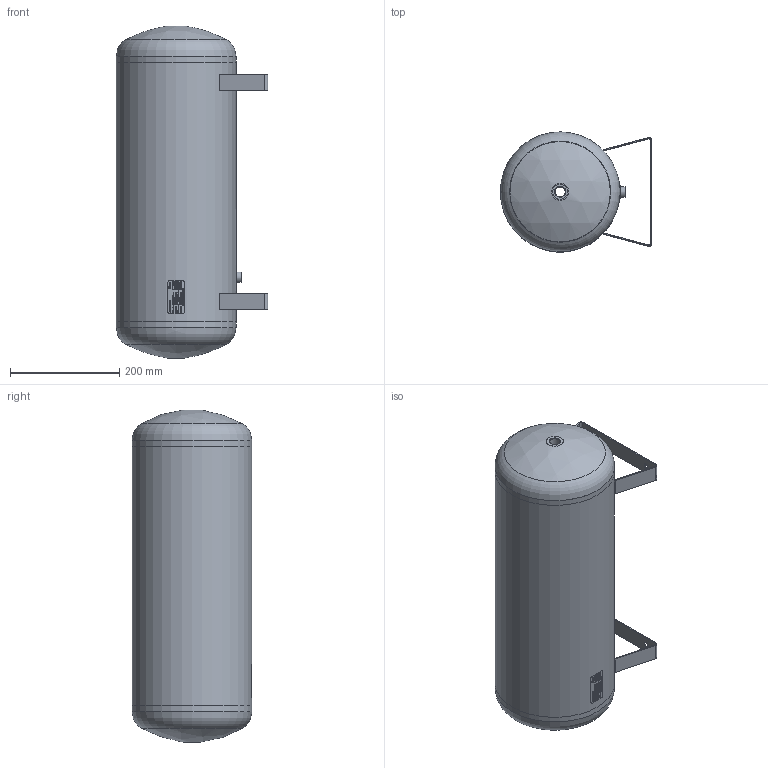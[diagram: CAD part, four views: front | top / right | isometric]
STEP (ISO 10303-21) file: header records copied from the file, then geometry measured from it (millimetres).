
FILE_DESCRIPTION(/* description */ (''),/* implementation_level */ '2;1');
FILE_NAME(/* name */ 'ATNL0200-SS 20.00L.stp',/* time_stamp */ '2022-11-07T13:25:08+01:00',/* author */ ('harm'),/* organization */ (''),/* preprocessor_version */ 'ST-DEVELOPER v19.2',/* originating_system */ 'Autodesk Inventor 2023',/* authorisation */ '');
FILE_SCHEMA (('AUTOMOTIVE_DESIGN { 1 0 10303 214 3 1 1 }'));
Length unit declared in the file: millimetre
Products named in the file (7): -; -_1; Cap Korbboog 219; Voetsteun s=2 0200; 24866; -_2; Typeplaatje ATNL0200-SS
Assembly tree (9 placements, depth 2):
  -
    -_1
    Cap Korbboog 219  x2
    Voetsteun s=2 0200  x2
    24866
    -_2  x2
    Typeplaatje ATNL0200-SS
Bounding box: 277.1 x 219.3 x 607.6 mm (x, y, z)
Volume: 935202.4 mm3; surface area: 944361.1 mm2
Topology: 9 solids, 9 shells, 2883 faces, 7688 edges, 5114 vertices
Faces by surface type: bspline 1626, plane 913, cylinder 324, cone 9, torus 7, sphere 4
Full cylindrical faces by diameter (mm): 9 x4, 11.445 x1, 18.631 x2, 19 x1, 23 x2, 26.5 x2, 31 x2, 31.5 x2, 215.1 x3, 219.1 x3
Entity records: 125508 total; most frequent: CARTESIAN_POINT 64314, ORIENTED_EDGE 15206, DIRECTION 7702, EDGE_CURVE 7603, VERTEX_POINT 5063, LINE 3434, VECTOR 3434, B_SPLINE_CURVE_WITH_KNOTS 3266
